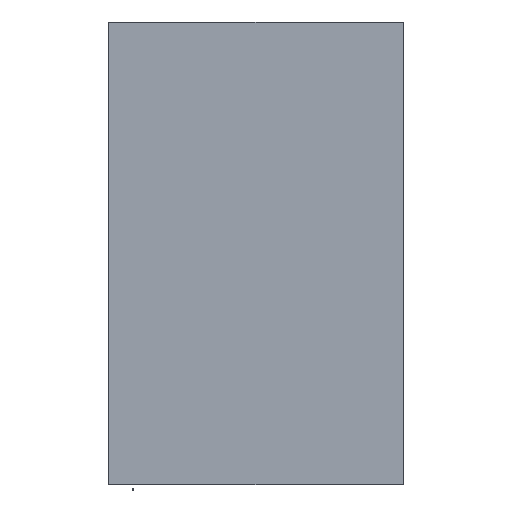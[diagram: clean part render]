
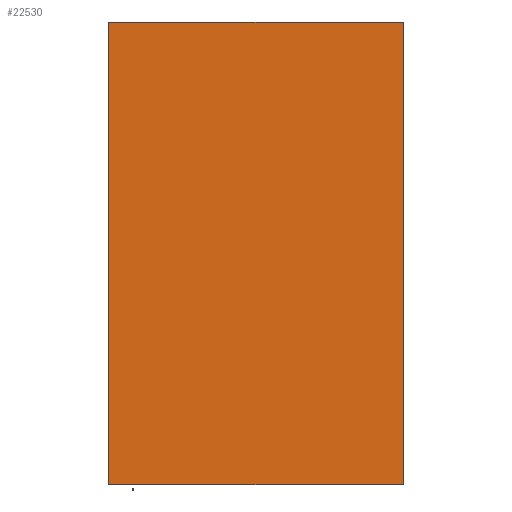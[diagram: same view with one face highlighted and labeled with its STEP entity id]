
A CAD part, left-side view. The second image highlights one B-rep face of the part: STEP entity #22530.
In plain terms, the highlighted planar face has unit normal (-1, 0, 0).
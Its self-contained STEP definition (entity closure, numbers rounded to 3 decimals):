
#22406=DIRECTION('',(0.,0.,1.));
#22407=VECTOR('',#22406,1400.);
#22408=CARTESIAN_POINT('',(0.,0.,-1400.));
#22409=LINE('',#22408,#22407);
#22410=DIRECTION('',(0.,1.,0.));
#22411=VECTOR('',#22410,2200.);
#22412=CARTESIAN_POINT('',(0.,0.,0.));
#22413=LINE('',#22412,#22411);
#22414=DIRECTION('',(0.,1.,0.));
#22415=VECTOR('',#22414,2200.);
#22416=CARTESIAN_POINT('',(0.,0.,-1400.));
#22417=LINE('',#22416,#22415);
#22438=DIRECTION('',(0.,0.,1.));
#22439=VECTOR('',#22438,1400.);
#22440=CARTESIAN_POINT('',(0.,2200.,-1400.));
#22441=LINE('',#22440,#22439);
#22458=CARTESIAN_POINT('',(0.,0.,0.));
#22460=VERTEX_POINT('',#22458);
#22468=CARTESIAN_POINT('',(0.,0.,-1400.));
#22469=VERTEX_POINT('',#22468);
#22470=CARTESIAN_POINT('',(0.,2200.,0.));
#22472=VERTEX_POINT('',#22470);
#22480=CARTESIAN_POINT('',(0.,2200.,-1400.));
#22481=VERTEX_POINT('',#22480);
#22517=CARTESIAN_POINT('',(0.,0.,-1400.));
#22518=DIRECTION('',(-1.,0.,0.));
#22519=DIRECTION('',(0.,0.,1.));
#22520=AXIS2_PLACEMENT_3D('',#22517,#22518,#22519);
#22521=PLANE('',#22520);
#22522=ORIENTED_EDGE('',*,*,#22497,.F.);
#22524=ORIENTED_EDGE('',*,*,#22523,.T.);
#22526=ORIENTED_EDGE('',*,*,#22525,.T.);
#22527=ORIENTED_EDGE('',*,*,#22508,.F.);
#22528=EDGE_LOOP('',(#22522,#22524,#22526,#22527));
#22529=FACE_OUTER_BOUND('',#22528,.F.);
#22530=ADVANCED_FACE('',(#22529),#22521,.T.);
#22497=EDGE_CURVE('',#22469,#22460,#22409,.T.);
#22508=EDGE_CURVE('',#22460,#22472,#22413,.T.);
#22523=EDGE_CURVE('',#22469,#22481,#22417,.T.);
#22525=EDGE_CURVE('',#22481,#22472,#22441,.T.);
